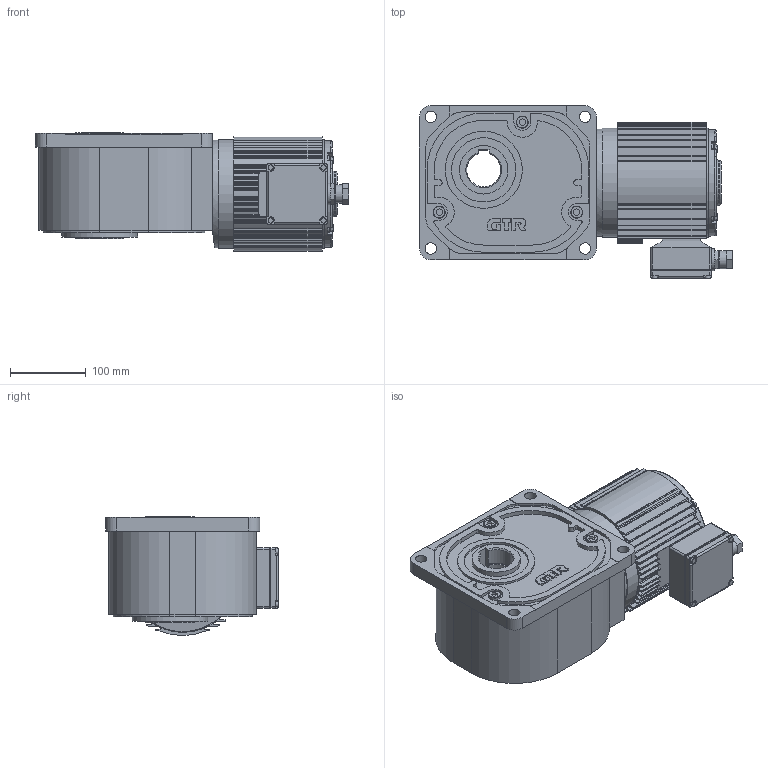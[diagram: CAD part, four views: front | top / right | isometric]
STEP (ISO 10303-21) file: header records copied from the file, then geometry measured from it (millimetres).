
FILE_DESCRIPTION( ( 'STEP AP203' ), ' ' );
FILE_NAME( 'p:/temp/worker_86/924_3324/app_90_12017041502093264005000260eae72_000000_00_00_000000/format_0/FS45N5N-IPG075NENNone.stp', '2017-04-15T00:09:34', ( '' ), ( '' ), ' ', 'PARTsolutions', ' ' );
FILE_SCHEMA( ( 'CONFIG_CONTROL_DESIGN' ) );
Length unit declared in the file: millimetre
Products named in the file (5): FS45N5N-IPG075NENNone; _FS45; HI_T075; _075IP; _E-BOX075
Assembly tree (4 placements, depth 2):
  FS45N5N-IPG075NENNone
    _FS45
    HI_T075
    _075IP
    _E-BOX075
Bounding box: 414 x 228.5 x 156.79 mm (x, y, z)
Volume: 7987465.6 mm3; surface area: 465262.1 mm2
Topology: 4 solids, 4 shells, 738 faces, 2013 edges, 1333 vertices
Faces by surface type: cylinder 364, plane 360, torus 9, cone 5
Full cylindrical faces by diameter (mm): 7 x4, 8.4 x4, 10 x4, 12 x5, 15 x4, 16 x3, 21 x1, 24 x1, 29 x1, 64 x2, 85 x2, 100 x1, 102 x2, 142 x1, 144 x2
Entity records: 23579 total; most frequent: CARTESIAN_POINT 4240, DIRECTION 4167, ORIENTED_EDGE 3924, EDGE_CURVE 1962, AXIS2_PLACEMENT_3D 1498, VERTEX_POINT 1327, LINE 1171, VECTOR 1171
